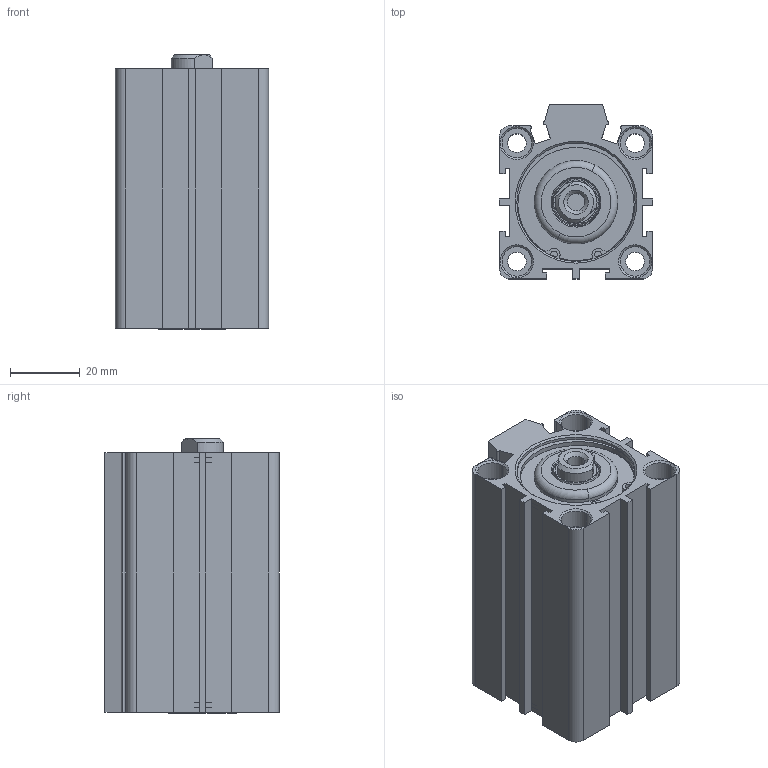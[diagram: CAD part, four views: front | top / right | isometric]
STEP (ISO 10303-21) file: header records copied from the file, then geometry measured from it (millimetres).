
FILE_DESCRIPTION (( 'STEP AP214' ), '1' );
FILE_NAME ('SDA_32_40_WEB.STEP', '2021-01-22T11:24:04', ( 'cagdas' ), ( '' ), 'SwSTEP 2.0', 'SolidWorks 2021', '' );
FILE_SCHEMA (( 'AUTOMOTIVE_DESIGN' ));
Length unit declared in the file: millimetre
Products named in the file (7): KASTAS-K52-12X16_5X3_6-4_8; SDA32_BORU_WEB; SDA32ARKKAPAK; basic internal retaining ring_am_B27.7M - 3BM1-36; SDA32ONKAPAKDINCPLASTIK; 20_MIL_WEB; SDA_32_40_WEB
Assembly tree (7 placements, depth 2):
  SDA_32_40_WEB
    SDA32_BORU_WEB
    SDA32ONKAPAKDINCPLASTIK
    KASTAS-K52-12X16_5X3_6-4_8
    SDA32ARKKAPAK
    20_MIL_WEB
    basic internal retaining ring_am_B27.7M - 3BM1-36  x2
Bounding box: 44 x 50 x 78.85 mm (x, y, z)
Volume: 80183.9 mm3; surface area: 44804.1 mm2
Topology: 7 solids, 7 shells, 467 faces, 1165 edges, 750 vertices
Faces by surface type: plane 178, cylinder 124, bspline 85, cone 76, torus 4
Entity records: 19570 total; most frequent: CARTESIAN_POINT 7109, ORIENTED_EDGE 2228, DIRECTION 1994, EDGE_CURVE 1114, VERTEX_POINT 716, AXIS2_PLACEMENT_3D 687, VECTOR 620, LINE 620
